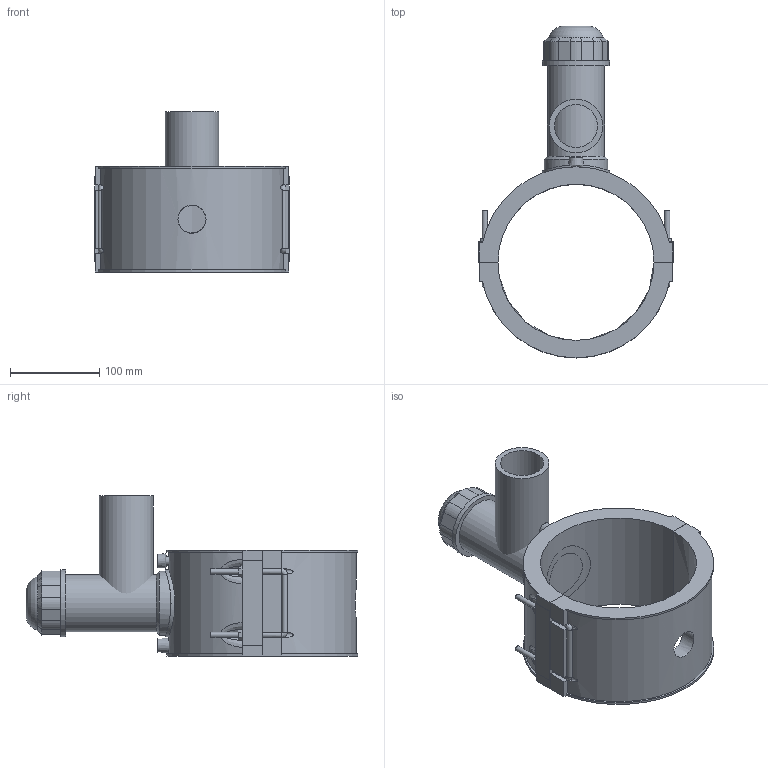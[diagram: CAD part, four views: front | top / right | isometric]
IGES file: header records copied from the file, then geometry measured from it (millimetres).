
Global section: file name: 5963DBP3060020.ipt; native system: Autodesk Inventor 2019; preprocessor: unknown; author: KIM; date: 20210830.101657; units: inch
Bounding box: 217.9 x 371.08 x 178.94 mm (x, y, z)
Volume: 1732655 mm3; surface area: 301454.1 mm2
Topology: 3 solids, 4 shells, 200 faces, 501 edges, 325 vertices
Faces by surface type: plane 125, cylinder 35, revolution 21, cone 15, bspline 4
Full cylindrical faces by diameter (mm): 4 x2, 6 x8, 60.1 x1, 63.78 x1, 71.283 x1, 75.035 x2
